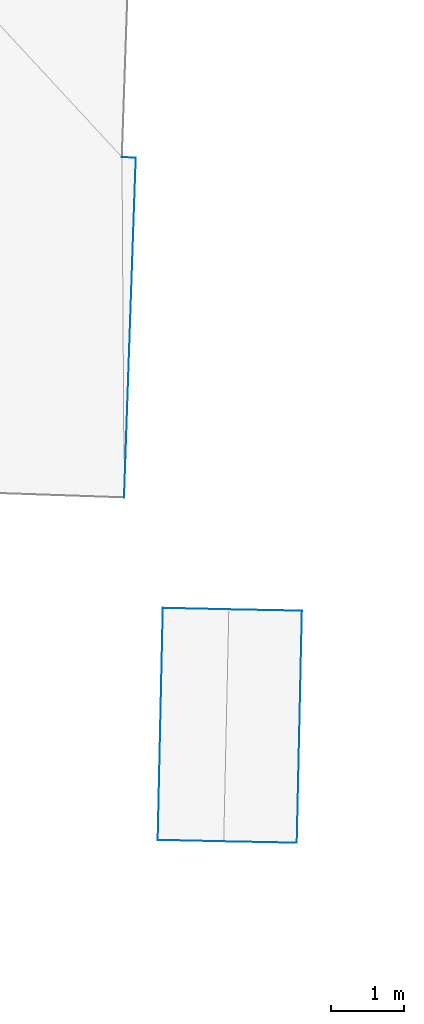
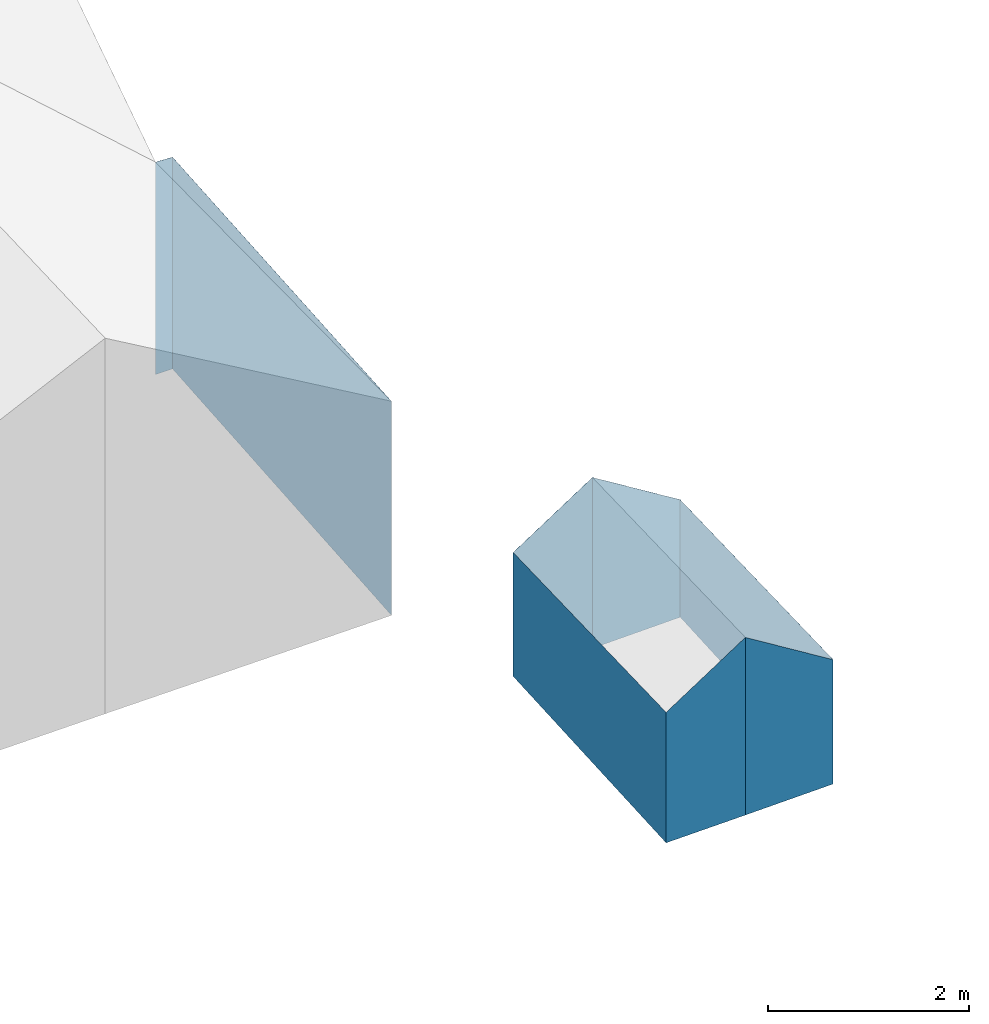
# Not in any storey, part 12 of 59: 8 walls.
"""IFC4 building model written with IfcOpenShell, lengths in metres."""

from ifc_helpers import new_model, entity, si_unit, converted_unit, origin, place, context, subcontext, project, spatial, face_set, surface_model, element, save


model = new_model("IFC4")

# Units and contexts
model_context = context("Model", 3, precision=1e-05, world=origin())
body_context = subcontext(model_context, "Body", "Model", "MODEL_VIEW")
ifc_project = project(units=[converted_unit("PLANEANGLEUNIT", "DEGREE", entity("IfcRatioMeasure", 0.0174532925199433), si_unit("PLANEANGLEUNIT", "RADIAN"), dimensions=[0, 0, 0, 0, 0, 0, 0]), si_unit("AREAUNIT", "SQUARE_METRE"), si_unit("LENGTHUNIT", "METRE")], contexts=[model_context])

# Site, building
site_placement = place(None, origin())
site = spatial("IfcSite", under=ifc_project, at=site_placement, Name="_site")
building_1_placement = place(site_placement, origin())
building_1 = spatial("IfcBuilding", under=site, at=building_1_placement, Name="_building")

# Walls
wall_1_placement = place(building_1_placement, origin())
element("IfcWall", 1, at=wall_1_placement, inside=building_1, Name="Wall", PredefinedType="NOTDEFINED", context=body_context, shape_type="SurfaceModel", body=[
    surface_model("IfcFaceBasedSurfaceModel", [(127.84, 103.59, 217.27), (128.03, 103.58, 217.27), (128.03, 103.58, 214.693), (127.84, 103.59, 214.684)], [face_set([[[0, 1, 2, 3]]])]),
])
wall_2_placement = place(building_1_placement, origin())
element("IfcWall", 2, at=wall_2_placement, inside=building_1, Name="Wall", PredefinedType="NOTDEFINED", context=body_context, shape_type="SurfaceModel", body=[
    surface_model("IfcFaceBasedSurfaceModel", [(128.03, 103.58, 217.27), (127.87, 98.939, 217.17), (127.87, 98.939, 214.564), (128.03, 103.58, 214.693)], [face_set([[[0, 1, 2, 3]]])]),
])

# Building
building_2_placement = place(site_placement, origin())
building_2 = spatial("IfcBuilding", under=site, at=building_2_placement, Name="_building")

# Walls
wall_3_placement = place(building_2_placement, origin())
element("IfcWall", 3, at=wall_3_placement, inside=building_2, Name="Wall", PredefinedType="NOTDEFINED", context=body_context, shape_type="SurfaceModel", body=[
    surface_model("IfcFaceBasedSurfaceModel", [(129.3, 97.41, 216.67), (130.3, 97.391, 216.06), (130.3, 97.391, 214.63), (129.3, 97.41, 214.589)], [face_set([[[0, 1, 2, 3]]])]),
])
wall_4_placement = place(building_2_placement, origin())
element("IfcWall", 4, at=wall_4_placement, inside=building_2, Name="Wall", PredefinedType="NOTDEFINED", context=body_context, shape_type="SurfaceModel", body=[
    surface_model("IfcFaceBasedSurfaceModel", [(128.4, 97.43, 216.06), (129.3, 97.41, 216.67), (129.3, 97.41, 214.589), (128.4, 97.43, 214.552)], [face_set([[[0, 1, 2, 3]]])]),
])
wall_5_placement = place(building_2_placement, origin())
element("IfcWall", 5, at=wall_5_placement, inside=building_2, Name="Wall", PredefinedType="NOTDEFINED", context=body_context, shape_type="SurfaceModel", body=[
    surface_model("IfcFaceBasedSurfaceModel", [(130.23, 94.221, 216.06), (129.23, 94.24, 216.67), (129.23, 94.24, 214.508), (130.23, 94.221, 214.548)], [face_set([[[0, 1, 2, 3]]])]),
])
wall_6_placement = place(building_2_placement, origin())
element("IfcWall", 6, at=wall_6_placement, inside=building_2, Name="Wall", PredefinedType="NOTDEFINED", context=body_context, shape_type="SurfaceModel", body=[
    surface_model("IfcFaceBasedSurfaceModel", [(129.23, 94.24, 216.67), (128.33, 94.26, 216.06), (128.33, 94.26, 214.473), (129.23, 94.24, 214.508)], [face_set([[[0, 1, 2, 3]]])]),
])
wall_7_placement = place(building_2_placement, origin())
element("IfcWall", 7, at=wall_7_placement, inside=building_2, Name="Wall", PredefinedType="NOTDEFINED", context=body_context, shape_type="SurfaceModel", body=[
    surface_model("IfcFaceBasedSurfaceModel", [(130.3, 97.391, 216.06), (130.23, 94.221, 216.06), (130.23, 94.221, 214.548), (130.3, 97.391, 214.63)], [face_set([[[0, 1, 2, 3]]])]),
])
wall_8_placement = place(building_2_placement, origin())
element("IfcWall", 8, at=wall_8_placement, inside=building_2, Name="Wall", PredefinedType="NOTDEFINED", context=body_context, shape_type="SurfaceModel", body=[
    surface_model("IfcFaceBasedSurfaceModel", [(128.33, 94.26, 216.06), (128.4, 97.43, 216.06), (128.4, 97.43, 214.552), (128.33, 94.26, 214.473)], [face_set([[[0, 1, 2, 3]]])]),
])

save(model, "model.ifc")
